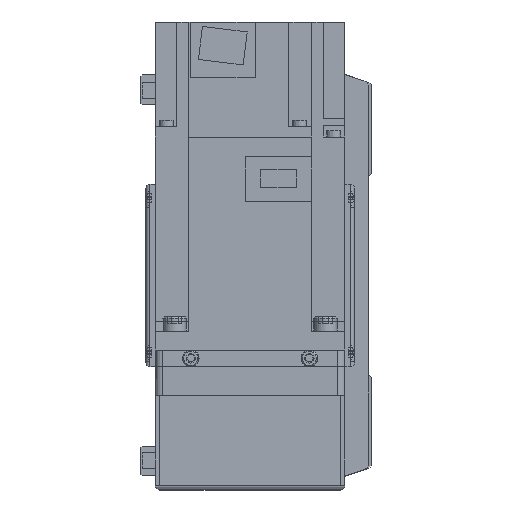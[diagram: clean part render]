
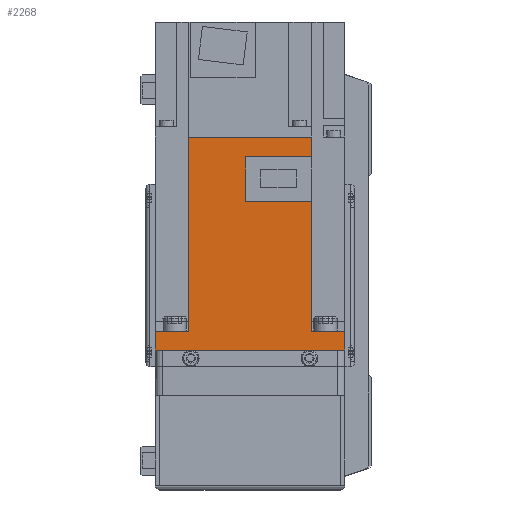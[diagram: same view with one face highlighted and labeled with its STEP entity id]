
A CAD part, left-side view. The second image highlights one B-rep face of the part: STEP entity #2268.
In plain terms, the highlighted planar face has unit normal (-1, 0, 0) as drawn and (1, 0, 0) by its records, which use the part's own axes.
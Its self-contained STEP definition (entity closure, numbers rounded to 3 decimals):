
#2268 = ADVANCED_FACE( '', ( #5240 ), #5241, .F. );
#5240 = FACE_OUTER_BOUND( '', #8982, .T. );
#5241 = PLANE( '', #8983 );
#8982 = EDGE_LOOP( '', ( #15392, #15393, #15394, #15395, #15396, #15397, #15398, #15399, #15400, #15401, #15402, #15403 ) );
#8983 = AXIS2_PLACEMENT_3D( '', #15404, #15405, #15406 );
#15392 = ORIENTED_EDGE( '', *, *, #23222, .F. );
#15393 = ORIENTED_EDGE( '', *, *, #23013, .F. );
#15394 = ORIENTED_EDGE( '', *, *, #23252, .F. );
#15395 = ORIENTED_EDGE( '', *, *, #21641, .T. );
#15396 = ORIENTED_EDGE( '', *, *, #21764, .F. );
#15397 = ORIENTED_EDGE( '', *, *, #21360, .T. );
#15398 = ORIENTED_EDGE( '', *, *, #20944, .T. );
#15399 = ORIENTED_EDGE( '', *, *, #21185, .F. );
#15400 = ORIENTED_EDGE( '', *, *, #23253, .F. );
#15401 = ORIENTED_EDGE( '', *, *, #23015, .F. );
#15402 = ORIENTED_EDGE( '', *, *, #23254, .F. );
#15403 = ORIENTED_EDGE( '', *, *, #23255, .F. );
#15404 = CARTESIAN_POINT( '', ( 40., 89.8, 40. ) );
#15405 = DIRECTION( '', ( -1., 0., 0. ) );
#15406 = DIRECTION( '', ( 0., 0., 1. ) );
#20944 = EDGE_CURVE( '', #24785, #24783, #24786, .T. );
#21185 = EDGE_CURVE( '', #25218, #24783, #25220, .T. );
#21360 = EDGE_CURVE( '', #25525, #24785, #25526, .T. );
#21641 = EDGE_CURVE( '', #26009, #26007, #26010, .T. );
#21764 = EDGE_CURVE( '', #25525, #26007, #26225, .T. );
#23013 = EDGE_CURVE( '', #28219, #28221, #28222, .T. );
#23015 = EDGE_CURVE( '', #28223, #28225, #28226, .T. );
#23222 = EDGE_CURVE( '', #28221, #28524, #28525, .T. );
#23252 = EDGE_CURVE( '', #26009, #28219, #28574, .T. );
#23253 = EDGE_CURVE( '', #28225, #25218, #28575, .T. );
#23254 = EDGE_CURVE( '', #28576, #28223, #28577, .T. );
#23255 = EDGE_CURVE( '', #28524, #28576, #28578, .T. );
#24783 = VERTEX_POINT( '', #30488 );
#24785 = VERTEX_POINT( '', #30491 );
#24786 = LINE( '', #30492, #30493 );
#25218 = VERTEX_POINT( '', #31177 );
#25220 = LINE( '', #31180, #31181 );
#25525 = VERTEX_POINT( '', #31578 );
#25526 = LINE( '', #31579, #31580 );
#26007 = VERTEX_POINT( '', #32316 );
#26009 = VERTEX_POINT( '', #32319 );
#26010 = LINE( '', #32320, #32321 );
#26225 = LINE( '', #32634, #32635 );
#28219 = VERTEX_POINT( '', #35909 );
#28221 = VERTEX_POINT( '', #35912 );
#28222 = LINE( '', #35913, #35914 );
#28223 = VERTEX_POINT( '', #35915 );
#28225 = VERTEX_POINT( '', #35918 );
#28226 = LINE( '', #35919, #35920 );
#28524 = VERTEX_POINT( '', #36394 );
#28525 = LINE( '', #36395, #36396 );
#28574 = LINE( '', #36456, #36457 );
#28575 = LINE( '', #36458, #36459 );
#28576 = VERTEX_POINT( '', #36460 );
#28577 = LINE( '', #36461, #36462 );
#28578 = LINE( '', #36463, #36464 );
#30488 = CARTESIAN_POINT( '', ( 40., 0., -40. ) );
#30491 = CARTESIAN_POINT( '', ( 40., 0., 40. ) );
#30492 = CARTESIAN_POINT( '', ( 40., 0., 40. ) );
#30493 = VECTOR( '', #39356, 1000. );
#31177 = CARTESIAN_POINT( '', ( 40., 8., -40. ) );
#31180 = CARTESIAN_POINT( '', ( 40., 89.8, -40. ) );
#31181 = VECTOR( '', #39689, 1000. );
#31578 = CARTESIAN_POINT( '', ( 40., 8., 40. ) );
#31579 = CARTESIAN_POINT( '', ( 40., 89.8, 40. ) );
#31580 = VECTOR( '', #39942, 1000. );
#32316 = CARTESIAN_POINT( '', ( 40., 8., 25.95 ) );
#32319 = CARTESIAN_POINT( '', ( 40., 89.8, 25.95 ) );
#32320 = CARTESIAN_POINT( '', ( 40., 158., 25.95 ) );
#32321 = VECTOR( '', #40310, 1000. );
#32634 = CARTESIAN_POINT( '', ( 40., 8., 40. ) );
#32635 = VECTOR( '', #40488, 1000. );
#35909 = CARTESIAN_POINT( '', ( 40., 89.8, -25.95 ) );
#35912 = CARTESIAN_POINT( '', ( 40., 81.4, -25.95 ) );
#35913 = CARTESIAN_POINT( '', ( 40., 158., -25.95 ) );
#35914 = VECTOR( '', #42045, 1000. );
#35915 = CARTESIAN_POINT( '', ( 40., 62.8, -25.95 ) );
#35918 = CARTESIAN_POINT( '', ( 40., 8., -25.95 ) );
#35919 = CARTESIAN_POINT( '', ( 40., 158., -25.95 ) );
#35920 = VECTOR( '', #42047, 1000. );
#36394 = CARTESIAN_POINT( '', ( 40., 81.4, 1.8 ) );
#36395 = CARTESIAN_POINT( '', ( 40., 81.4, -26. ) );
#36396 = VECTOR( '', #42288, 1000. );
#36456 = CARTESIAN_POINT( '', ( 40., 89.8, 40. ) );
#36457 = VECTOR( '', #42336, 1000. );
#36458 = CARTESIAN_POINT( '', ( 40., 8., 40. ) );
#36459 = VECTOR( '', #42337, 1000. );
#36460 = CARTESIAN_POINT( '', ( 40., 62.8, 1.8 ) );
#36461 = CARTESIAN_POINT( '', ( 40., 62.8, 1.8 ) );
#36462 = VECTOR( '', #42338, 1000. );
#36463 = CARTESIAN_POINT( '', ( 40., 81.4, 1.8 ) );
#36464 = VECTOR( '', #42339, 1000. );
#39356 = DIRECTION( '', ( 0., 0., -1. ) );
#39689 = DIRECTION( '', ( 0., -1., 0. ) );
#39942 = DIRECTION( '', ( 0., -1., 0. ) );
#40310 = DIRECTION( '', ( 0., -1., 0. ) );
#40488 = DIRECTION( '', ( 0., 0., -1. ) );
#42045 = DIRECTION( '', ( 0., -1., 0. ) );
#42047 = DIRECTION( '', ( 0., -1., 0. ) );
#42288 = DIRECTION( '', ( 0., 0., 1. ) );
#42336 = DIRECTION( '', ( 0., 0., -1. ) );
#42337 = DIRECTION( '', ( 0., 0., -1. ) );
#42338 = DIRECTION( '', ( 0., 0., -1. ) );
#42339 = DIRECTION( '', ( 0., -1., 0. ) );
